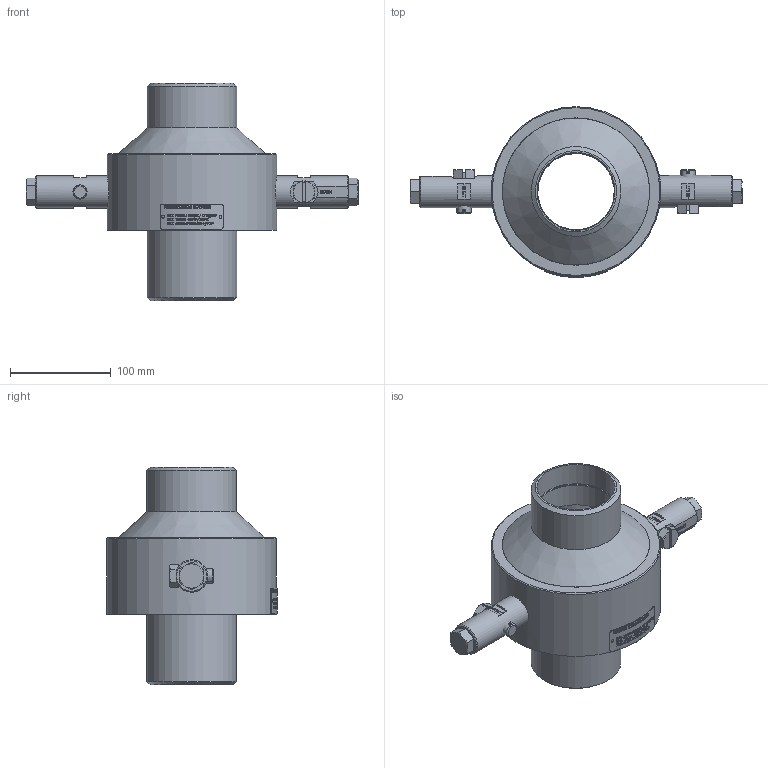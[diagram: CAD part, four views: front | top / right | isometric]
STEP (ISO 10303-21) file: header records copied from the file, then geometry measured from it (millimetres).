
FILE_DESCRIPTION(/* description */ (''),/* implementation_level */ '2;1');
FILE_NAME(/* name */ 'C:\001_Work\Designs\BALL JOINT\3 in Ball Joint Assem(Round PP).stp',/* time_stamp */ '2015-02-23T10:16:11-05:00',/* author */ ('mleuck'),/* organization */ (''),/* preprocessor_version */ 'ST-DEVELOPER v15.2',/* originating_system */ 'Autodesk Inventor 2014',/* authorisation */ '');
FILE_SCHEMA (('AUTOMOTIVE_DESIGN { 1 0 10303 214 3 1 1 }'));
Length unit declared in the file: inch
Products named in the file (15): (3 inch) BALL JOINT HOUSING-sm; (3 inch) BALL JOINT THREADED RING; Restraining Ring; (3 inch) Hard Packing; (3 inch) Soft Packing; ANSI B18.3.6M - M6x1 x 6(8); BALL JOINT NIPPLE-1; Inside Ball; Plug-ROUND(long)-8-1-14 (2-3_INCH SIZE); M14x1.5x35Long(FineThread)-shutoffvalve-(8-1-14); M16x2x30 Long-PackingBolt; IFI 512-S - 2.514; Plug Assem(NewRound)(long)(8-1-14)(2-3_inch); 3inch - decal; 3 in Ball Joint Assem(Round PP)
Bounding box: 329.09 x 169.07 x 215.9 mm (x, y, z)
Volume: 1707030.2 mm3; surface area: 412916.6 mm2
Topology: 20 solids, 20 shells, 1769 faces, 4683 edges, 3108 vertices
Faces by surface type: plane 876, bspline 649, cylinder 172, cone 64, sphere 6, torus 2
Full cylindrical faces by diameter (mm): 2.5 x2, 3.03 x2, 6 x6, 9 x2, 11.75 x2, 11.836 x2, 13.843 x2, 14 x2, 15 x2, 16 x2, 32 x4, 76.2 x1, 77.419 x2, 88.9 x2, 114.3 x1, 146.05 x8, 168.275 x1
Entity records: 60936 total; most frequent: CARTESIAN_POINT 26008, ORIENTED_EDGE 7810, DIRECTION 5196, EDGE_CURVE 3905, VERTEX_POINT 2626, LINE 1966, VECTOR 1966, EDGE_LOOP 1715
